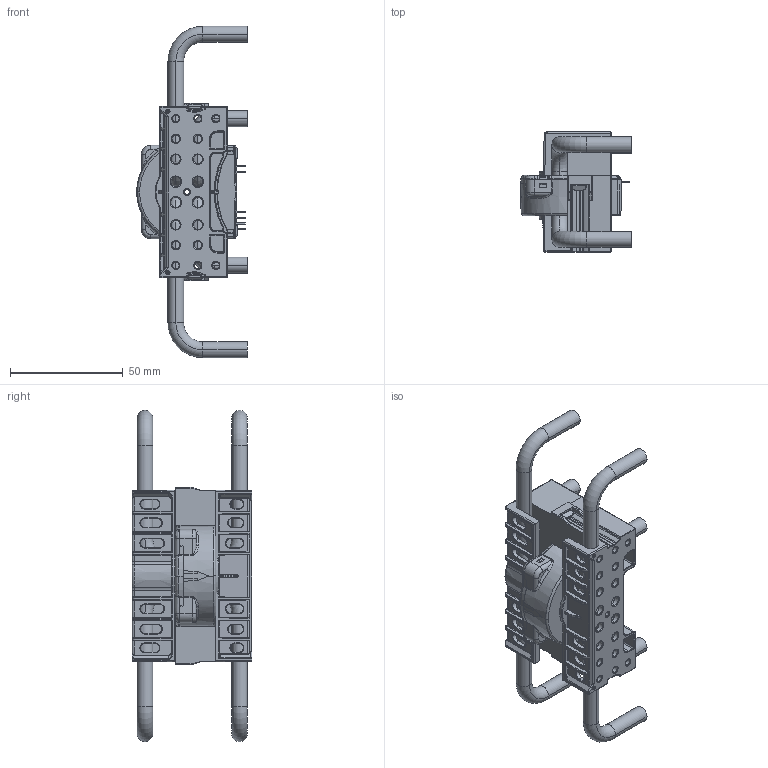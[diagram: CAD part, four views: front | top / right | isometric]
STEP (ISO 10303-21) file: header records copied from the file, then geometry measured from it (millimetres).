
FILE_DESCRIPTION(('Creo Elements/Direct Modeling STEP Export'),'2;1');
FILE_NAME('CTSR 3-TP SP23 Blackbox.stp','2024-01-22T15:54:04',(''),(''),'Creo Elements/Direct Modeling STEP processor for AP214 (Solid Model)','Creo Elements/Direct Modeling 20.3D 14-Nov-2022 (C) Parametric Technology GmbH','');
FILE_SCHEMA(('AUTOMOTIVE_DESIGN { 1 0 10303 214 1 1 1 1 }'));
Length unit declared in the file: millimetre
Products named in the file (7): 1.CTSR_body; Clamp_AB; Jumper_A; Jumper_B; 2.Pri._assy; Blackbox.1.2; 2.Blackbox
Assembly tree (8 placements, depth 4):
  2.Blackbox
    Blackbox.1.2
      2.Pri._assy
        Jumper_A  x2
        Jumper_B  x2
        Clamp_AB
      1.CTSR_body
Bounding box: 49.06 x 53.2 x 147 mm (x, y, z)
Volume: 91109.3 mm3; surface area: 53795.6 mm2
Topology: 6 solids, 6 shells, 1793 faces, 4743 edges, 2922 vertices
Faces by surface type: cylinder 600, plane 558, bspline 371, torus 203, cone 49, sphere 6, extrusion 6
Entity records: 115799 total; most frequent: CARTESIAN_POINT 73134, ORIENTED_EDGE 9230, DIRECTION 6406, EDGE_CURVE 4615, VERTEX_POINT 2871, AXIS2_PLACEMENT_3D 2185, VECTOR 2036, LINE 2030
